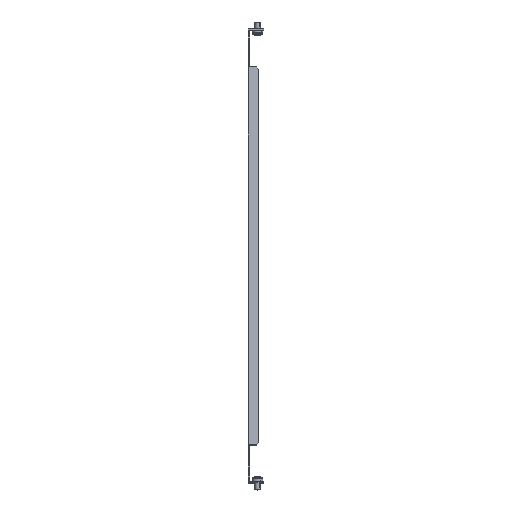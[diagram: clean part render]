
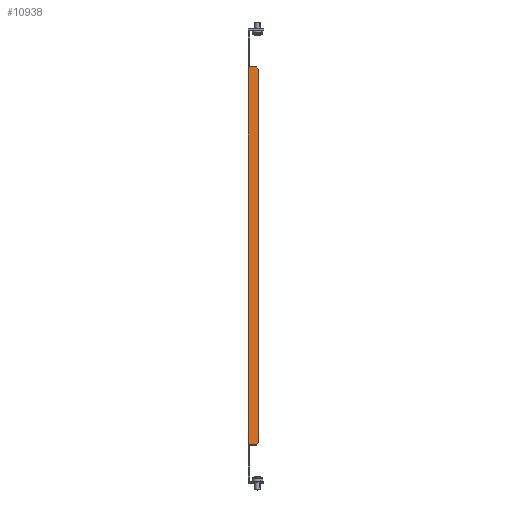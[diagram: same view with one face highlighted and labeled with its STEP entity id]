
A CAD part, top view. The second image highlights one B-rep face of the part: STEP entity #10938.
In plain terms, the highlighted planar face has unit normal (0.5, 0, 0.866).
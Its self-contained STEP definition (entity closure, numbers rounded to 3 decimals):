
#379 = EDGE_CURVE ( 'NONE', #2595, #12282, #14346, .T. ) ;
#462 = EDGE_CURVE ( 'NONE', #2595, #19531, #2452, .T. ) ;
#1326 = FACE_OUTER_BOUND ( 'NONE', #1547, .T. ) ;
#1547 = EDGE_LOOP ( 'NONE', ( #9740, #21406, #15240, #18390, #14554, #9552, #8221, #19120 ) ) ;
#2380 = VECTOR ( 'NONE', #13807, 1000. ) ;
#2386 = DIRECTION ( 'NONE',  ( 0., -1., 0. ) ) ;
#2452 = LINE ( 'NONE', #9067, #10854 ) ;
#2504 = EDGE_CURVE ( 'NONE', #15098, #3888, #13751, .T. ) ;
#2567 = VECTOR ( 'NONE', #19327, 1000. ) ;
#2595 = VERTEX_POINT ( 'NONE', #20125 ) ;
#2613 = EDGE_CURVE ( 'NONE', #19531, #3888, #18941, .T. ) ;
#3425 = CARTESIAN_POINT ( 'NONE',  ( 11.401, 207.75, 193.614 ) ) ;
#3707 = DIRECTION ( 'NONE',  ( -0.612, 0.707, 0.354 ) ) ;
#3787 = DIRECTION ( 'NONE',  ( -0.866, 0., 0.5 ) ) ;
#3796 = CARTESIAN_POINT ( 'NONE',  ( 8.803, -210.75, 195.114 ) ) ;
#3887 = CARTESIAN_POINT ( 'NONE',  ( 85.562, -210.75, 150.797 ) ) ;
#3888 = VERTEX_POINT ( 'NONE', #8418 ) ;
#4014 = VECTOR ( 'NONE', #2386, 1000. ) ;
#4332 = PLANE ( 'NONE',  #9809 ) ;
#4593 = LINE ( 'NONE', #17900, #20631 ) ;
#4743 = VECTOR ( 'NONE', #3707, 1000. ) ;
#5082 = EDGE_CURVE ( 'NONE', #5782, #15098, #4593, .T. ) ;
#5312 = CARTESIAN_POINT ( 'NONE',  ( 4.5, -210.75, 197.598 ) ) ;
#5782 = VERTEX_POINT ( 'NONE', #3796 ) ;
#6119 = CARTESIAN_POINT ( 'NONE',  ( 11.401, 210.75, 193.614 ) ) ;
#7553 = LINE ( 'NONE', #17065, #9650 ) ;
#8221 = ORIENTED_EDGE ( 'NONE', *, *, #2613, .T. ) ;
#8418 = CARTESIAN_POINT ( 'NONE',  ( 0., -210.75, 200.196 ) ) ;
#9067 = CARTESIAN_POINT ( 'NONE',  ( 4.5, 210.75, 197.598 ) ) ;
#9217 = DIRECTION ( 'NONE',  ( -0.5, 0., -0.866 ) ) ;
#9552 = ORIENTED_EDGE ( 'NONE', *, *, #462, .T. ) ;
#9650 = VECTOR ( 'NONE', #10684, 1000. ) ;
#9740 = ORIENTED_EDGE ( 'NONE', *, *, #5082, .F. ) ;
#9809 = AXIS2_PLACEMENT_3D ( 'NONE', #21120, #9217, #17741 ) ;
#10318 = LINE ( 'NONE', #16907, #4743 ) ;
#10684 = DIRECTION ( 'NONE',  ( 0., -1., 0. ) ) ;
#10796 = CARTESIAN_POINT ( 'NONE',  ( 0., 210.75, 200.196 ) ) ;
#10854 = VECTOR ( 'NONE', #19014, 1000. ) ;
#10938 = ADVANCED_FACE ( 'NONE', ( #1326 ), #4332, .F. ) ;
#11756 = LINE ( 'NONE', #20187, #2380 ) ;
#12249 = VERTEX_POINT ( 'NONE', #12326 ) ;
#12282 = VERTEX_POINT ( 'NONE', #15470 ) ;
#12326 = CARTESIAN_POINT ( 'NONE',  ( 11.401, -207.75, 193.614 ) ) ;
#13751 = LINE ( 'NONE', #3887, #15403 ) ;
#13807 = DIRECTION ( 'NONE',  ( 0.612, 0.707, -0.354 ) ) ;
#13954 = CARTESIAN_POINT ( 'NONE',  ( 0., 0., 200.196 ) ) ;
#14334 = DIRECTION ( 'NONE',  ( -0.866, 0., 0.5 ) ) ;
#14346 = LINE ( 'NONE', #6119, #2567 ) ;
#14554 = ORIENTED_EDGE ( 'NONE', *, *, #379, .F. ) ;
#14786 = EDGE_CURVE ( 'NONE', #20977, #12282, #10318, .T. ) ;
#15098 = VERTEX_POINT ( 'NONE', #5312 ) ;
#15240 = ORIENTED_EDGE ( 'NONE', *, *, #16228, .F. ) ;
#15403 = VECTOR ( 'NONE', #3787, 1000. ) ;
#15470 = CARTESIAN_POINT ( 'NONE',  ( 8.803, 210.75, 195.114 ) ) ;
#16228 = EDGE_CURVE ( 'NONE', #20977, #12249, #7553, .T. ) ;
#16907 = CARTESIAN_POINT ( 'NONE',  ( 8.803, 210.75, 195.114 ) ) ;
#17065 = CARTESIAN_POINT ( 'NONE',  ( 11.401, -210.75, 193.614 ) ) ;
#17741 = DIRECTION ( 'NONE',  ( 0.866, 0., -0.5 ) ) ;
#17900 = CARTESIAN_POINT ( 'NONE',  ( 2.25, -210.75, 198.897 ) ) ;
#18390 = ORIENTED_EDGE ( 'NONE', *, *, #14786, .T. ) ;
#18941 = LINE ( 'NONE', #13954, #4014 ) ;
#19014 = DIRECTION ( 'NONE',  ( -0.866, 0., 0.5 ) ) ;
#19120 = ORIENTED_EDGE ( 'NONE', *, *, #2504, .F. ) ;
#19327 = DIRECTION ( 'NONE',  ( 0.866, 0., -0.5 ) ) ;
#19531 = VERTEX_POINT ( 'NONE', #10796 ) ;
#20125 = CARTESIAN_POINT ( 'NONE',  ( 4.5, 210.75, 197.598 ) ) ;
#20187 = CARTESIAN_POINT ( 'NONE',  ( 11.401, -207.75, 193.614 ) ) ;
#20631 = VECTOR ( 'NONE', #14334, 1000. ) ;
#20977 = VERTEX_POINT ( 'NONE', #3425 ) ;
#21050 = EDGE_CURVE ( 'NONE', #5782, #12249, #11756, .T. ) ;
#21120 = CARTESIAN_POINT ( 'NONE',  ( 85.562, 0., 150.797 ) ) ;
#21406 = ORIENTED_EDGE ( 'NONE', *, *, #21050, .T. ) ;
